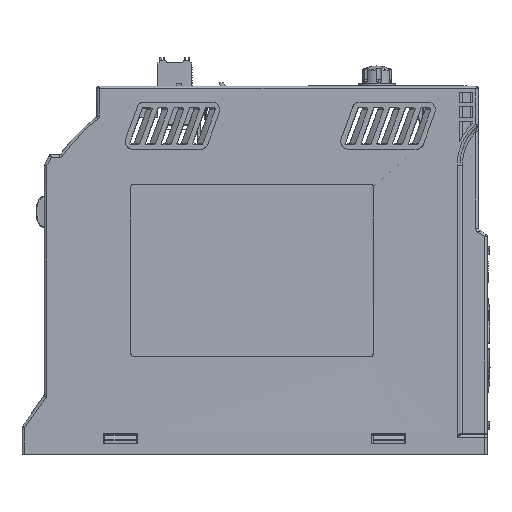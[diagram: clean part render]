
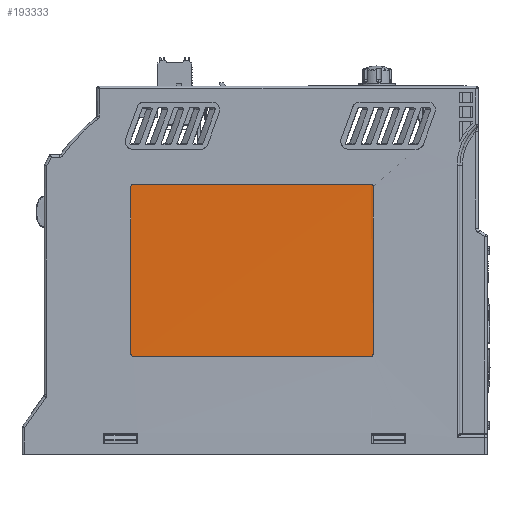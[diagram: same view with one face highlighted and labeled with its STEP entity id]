
A CAD part, top view. The second image highlights one B-rep face of the part: STEP entity #193333.
In plain terms, the highlighted planar face has unit normal (0, 0, 1).
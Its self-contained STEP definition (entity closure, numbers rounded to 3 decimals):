
#1295 = CARTESIAN_POINT ( 'NONE',  ( -116.892, -47.672, 289.425 ) ) ;
#1684 = ORIENTED_EDGE ( 'NONE', *, *, #190753, .T. ) ;
#3772 = CARTESIAN_POINT ( 'NONE',  ( -24.692, -26.505, 289.425 ) ) ;
#6013 = B_SPLINE_CURVE_WITH_KNOTS ( 'NONE', 3,
 ( #129905, #193441, #88100, #135047 ),
 .UNSPECIFIED., .F., .F.,
 ( 4, 4 ),
 ( 0., 1. ),
 .UNSPECIFIED. ) ;
#8231 = FACE_OUTER_BOUND ( 'NONE', #204999, .T. ) ;
#8887 = CARTESIAN_POINT ( 'NONE',  ( -25.187, 16.701, 289.425 ) ) ;
#10737 = CARTESIAN_POINT ( 'NONE',  ( -25.692, -48.672, 289.425 ) ) ;
#10925 = CARTESIAN_POINT ( 'NONE',  ( -24.819, 16.333, 289.425 ) ) ;
#10945 = CARTESIAN_POINT ( 'NONE',  ( -116.693, -48.285, 289.425 ) ) ;
#14351 = CARTESIAN_POINT ( 'NONE',  ( -25.692, 16.828, 289.425 ) ) ;
#14555 = CARTESIAN_POINT ( 'NONE',  ( -115.892, -48.672, 289.425 ) ) ;
#20450 = ORIENTED_EDGE ( 'NONE', *, *, #170898, .T. ) ;
#20946 = B_SPLINE_CURVE_WITH_KNOTS ( 'NONE', 3,
 ( #14351, #65411, #142540, #141508 ),
 .UNSPECIFIED., .F., .F.,
 ( 4, 4 ),
 ( 0., 1. ),
 .UNSPECIFIED. ) ;
#24567 = CARTESIAN_POINT ( 'NONE',  ( -24.891, 16.441, 289.425 ) ) ;
#24915 = CARTESIAN_POINT ( 'NONE',  ( -115.892, 15.828, 289.425 ) ) ;
#28534 = CARTESIAN_POINT ( 'NONE',  ( -116.397, 16.701, 289.425 ) ) ;
#28640 = CARTESIAN_POINT ( 'NONE',  ( -25.56, 16.828, 289.425 ) ) ;
#30927 = EDGE_CURVE ( 'NONE', #72934, #87070, #202962, .T. ) ;
#32086 = EDGE_CURVE ( 'NONE', #126737, #40322, #20946, .T. ) ;
#39181 = CARTESIAN_POINT ( 'NONE',  ( -116.892, -47.805, 289.425 ) ) ;
#39511 = DIRECTION ( 'NONE',  ( 0., -1., 0. ) ) ;
#40322 = VERTEX_POINT ( 'NONE', #83945 ) ;
#40473 = CARTESIAN_POINT ( 'NONE',  ( -25.432, -48.647, 289.425 ) ) ;
#41229 = CARTESIAN_POINT ( 'NONE',  ( -116.397, -48.545, 289.425 ) ) ;
#41556 = PLANE ( 'NONE',  #110286 ) ;
#42236 = CARTESIAN_POINT ( 'NONE',  ( -116.152, -48.647, 289.425 ) ) ;
#43065 = B_SPLINE_CURVE_WITH_KNOTS ( 'NONE', 3,
 ( #124448, #157741, #186950, #28534, #94161, #106718, #45191, #205689, #60836, #187993 ),
 .UNSPECIFIED., .F., .F.,
 ( 4, 2, 2, 2, 4 ),
 ( 0., 0.25, 0.5, 0.75, 1. ),
 .UNSPECIFIED. ) ;
#44755 = CARTESIAN_POINT ( 'NONE',  ( -25.692, 16.828, 289.425 ) ) ;
#45191 = CARTESIAN_POINT ( 'NONE',  ( -116.765, 16.333, 289.425 ) ) ;
#45781 = VERTEX_POINT ( 'NONE', #180709 ) ;
#48197 = ORIENTED_EDGE ( 'NONE', *, *, #116222, .T. ) ;
#50104 = CARTESIAN_POINT ( 'NONE',  ( -24.692, -47.672, 289.625 ) ) ;
#54878 = EDGE_CURVE ( 'NONE', #104936, #191553, #67948, .T. ) ;
#57139 = CARTESIAN_POINT ( 'NONE',  ( -25.692, -48.672, 289.425 ) ) ;
#58877 = CARTESIAN_POINT ( 'NONE',  ( -25.692, 16.828, 289.425 ) ) ;
#58900 = CARTESIAN_POINT ( 'NONE',  ( -116.867, -47.932, 289.425 ) ) ;
#60836 = CARTESIAN_POINT ( 'NONE',  ( -116.892, 15.96, 289.425 ) ) ;
#65411 = CARTESIAN_POINT ( 'NONE',  ( -55.759, 16.828, 289.425 ) ) ;
#67948 = B_SPLINE_CURVE_WITH_KNOTS ( 'NONE', 3,
 ( #146600, #39181, #58900, #185041, #10945, #197627, #41229, #42236, #180972, #72547 ),
 .UNSPECIFIED., .F., .F.,
 ( 4, 2, 2, 2, 4 ),
 ( 0., 0.25, 0.5, 0.75, 1. ),
 .UNSPECIFIED. ) ;
#71795 = CARTESIAN_POINT ( 'NONE',  ( -25.186, -48.545, 289.425 ) ) ;
#72547 = CARTESIAN_POINT ( 'NONE',  ( -115.892, -48.672, 289.425 ) ) ;
#72934 = VERTEX_POINT ( 'NONE', #83665 ) ;
#73553 = CARTESIAN_POINT ( 'NONE',  ( -24.692, 15.828, 289.425 ) ) ;
#83013 = CARTESIAN_POINT ( 'NONE',  ( -24.692, -47.672, 289.425 ) ) ;
#83665 = CARTESIAN_POINT ( 'NONE',  ( -25.692, -48.672, 289.625 ) ) ;
#83945 = CARTESIAN_POINT ( 'NONE',  ( -115.892, 16.828, 289.425 ) ) ;
#87070 = VERTEX_POINT ( 'NONE', #50104 ) ;
#88100 = CARTESIAN_POINT ( 'NONE',  ( -116.892, -26.505, 289.425 ) ) ;
#90475 = CARTESIAN_POINT ( 'NONE',  ( -24.891, -48.285, 289.425 ) ) ;
#91491 = CARTESIAN_POINT ( 'NONE',  ( -25.079, -48.473, 289.425 ) ) ;
#94161 = CARTESIAN_POINT ( 'NONE',  ( -116.505, 16.629, 289.425 ) ) ;
#94345 = B_SPLINE_CURVE_WITH_KNOTS ( 'NONE', 3,
 ( #83013, #3772, #117400, #101738 ),
 .UNSPECIFIED., .F., .F.,
 ( 4, 4 ),
 ( 0., 1. ),
 .UNSPECIFIED. ) ;
#101738 = CARTESIAN_POINT ( 'NONE',  ( -24.692, 15.828, 289.425 ) ) ;
#104779 = CARTESIAN_POINT ( 'NONE',  ( -24.692, 15.961, 289.425 ) ) ;
#104936 = VERTEX_POINT ( 'NONE', #1295 ) ;
#106522 = VERTEX_POINT ( 'NONE', #138536 ) ;
#106718 = CARTESIAN_POINT ( 'NONE',  ( -116.693, 16.441, 289.425 ) ) ;
#110286 = AXIS2_PLACEMENT_3D ( 'NONE', #24915, #196929, #39511 ) ;
#116222 = EDGE_CURVE ( 'NONE', #87070, #106522, #94345, .T. ) ;
#117400 = CARTESIAN_POINT ( 'NONE',  ( -24.692, -5.339, 289.425 ) ) ;
#119718 = CARTESIAN_POINT ( 'NONE',  ( -24.692, -47.805, 289.425 ) ) ;
#120744 = CARTESIAN_POINT ( 'NONE',  ( -24.819, -48.178, 289.425 ) ) ;
#120853 = ORIENTED_EDGE ( 'NONE', *, *, #30927, .T. ) ;
#123148 = ORIENTED_EDGE ( 'NONE', *, *, #32086, .T. ) ;
#123327 = CARTESIAN_POINT ( 'NONE',  ( -55.759, -48.672, 289.425 ) ) ;
#124448 = CARTESIAN_POINT ( 'NONE',  ( -115.892, 16.828, 289.425 ) ) ;
#126737 = VERTEX_POINT ( 'NONE', #44755 ) ;
#127382 = EDGE_CURVE ( 'NONE', #40322, #45781, #43065, .T. ) ;
#129905 = CARTESIAN_POINT ( 'NONE',  ( -116.892, 15.828, 289.425 ) ) ;
#135047 = CARTESIAN_POINT ( 'NONE',  ( -116.892, -47.672, 289.425 ) ) ;
#135349 = ORIENTED_EDGE ( 'NONE', *, *, #127382, .T. ) ;
#137116 = CARTESIAN_POINT ( 'NONE',  ( -25.079, 16.629, 289.425 ) ) ;
#138536 = CARTESIAN_POINT ( 'NONE',  ( -24.692, 15.828, 289.625 ) ) ;
#141508 = CARTESIAN_POINT ( 'NONE',  ( -115.892, 16.828, 289.425 ) ) ;
#142540 = CARTESIAN_POINT ( 'NONE',  ( -85.825, 16.828, 289.425 ) ) ;
#146600 = CARTESIAN_POINT ( 'NONE',  ( -116.892, -47.672, 289.425 ) ) ;
#150269 = EDGE_CURVE ( 'NONE', #191553, #72934, #166791, .T. ) ;
#153031 = CARTESIAN_POINT ( 'NONE',  ( -25.559, -48.672, 289.425 ) ) ;
#153567 = CARTESIAN_POINT ( 'NONE',  ( -115.892, -48.672, 289.425 ) ) ;
#157741 = CARTESIAN_POINT ( 'NONE',  ( -116.025, 16.828, 289.425 ) ) ;
#160995 = ORIENTED_EDGE ( 'NONE', *, *, #54878, .T. ) ;
#166791 = B_SPLINE_CURVE_WITH_KNOTS ( 'NONE', 3,
 ( #153567, #202517, #123327, #10737 ),
 .UNSPECIFIED., .F., .F.,
 ( 4, 4 ),
 ( 0., 1. ),
 .UNSPECIFIED. ) ;
#168357 = CARTESIAN_POINT ( 'NONE',  ( -24.717, 16.088, 289.425 ) ) ;
#170898 = EDGE_CURVE ( 'NONE', #45781, #104936, #6013, .T. ) ;
#171714 = CARTESIAN_POINT ( 'NONE',  ( -24.692, -47.672, 289.425 ) ) ;
#180709 = CARTESIAN_POINT ( 'NONE',  ( -116.892, 15.828, 289.425 ) ) ;
#180972 = CARTESIAN_POINT ( 'NONE',  ( -116.024, -48.672, 289.425 ) ) ;
#182993 = CARTESIAN_POINT ( 'NONE',  ( -25.432, 16.802, 289.425 ) ) ;
#184065 = B_SPLINE_CURVE_WITH_KNOTS ( 'NONE', 3,
 ( #73553, #104779, #168357, #10925, #24567, #137116, #8887, #182993, #28640, #58877 ),
 .UNSPECIFIED., .F., .F.,
 ( 4, 2, 2, 2, 4 ),
 ( 0., 0.25, 0.5, 0.75, 1. ),
 .UNSPECIFIED. ) ;
#185041 = CARTESIAN_POINT ( 'NONE',  ( -116.765, -48.178, 289.425 ) ) ;
#186950 = CARTESIAN_POINT ( 'NONE',  ( -116.152, 16.803, 289.425 ) ) ;
#187993 = CARTESIAN_POINT ( 'NONE',  ( -116.892, 15.828, 289.425 ) ) ;
#190753 = EDGE_CURVE ( 'NONE', #106522, #126737, #184065, .T. ) ;
#191553 = VERTEX_POINT ( 'NONE', #14555 ) ;
#193333 = ADVANCED_FACE ( 'NONE', ( #8231 ), #41556, .F. ) ;
#193441 = CARTESIAN_POINT ( 'NONE',  ( -116.892, -5.339, 289.425 ) ) ;
#196929 = DIRECTION ( 'NONE',  ( 0., 0., -1. ) ) ;
#197627 = CARTESIAN_POINT ( 'NONE',  ( -116.505, -48.473, 289.425 ) ) ;
#199936 = CARTESIAN_POINT ( 'NONE',  ( -24.717, -47.932, 289.425 ) ) ;
#202517 = CARTESIAN_POINT ( 'NONE',  ( -85.825, -48.672, 289.425 ) ) ;
#202962 = B_SPLINE_CURVE_WITH_KNOTS ( 'NONE', 3,
 ( #57139, #153031, #40473, #71795, #91491, #90475, #120744, #199936, #119718, #171714 ),
 .UNSPECIFIED., .F., .F.,
 ( 4, 2, 2, 2, 4 ),
 ( 0., 0.25, 0.5, 0.75, 1. ),
 .UNSPECIFIED. ) ;
#204999 = EDGE_LOOP ( 'NONE', ( #20450, #160995, #206379, #120853, #48197, #1684, #123148, #135349 ) ) ;
#205689 = CARTESIAN_POINT ( 'NONE',  ( -116.867, 16.088, 289.425 ) ) ;
#206379 = ORIENTED_EDGE ( 'NONE', *, *, #150269, .T. ) ;
